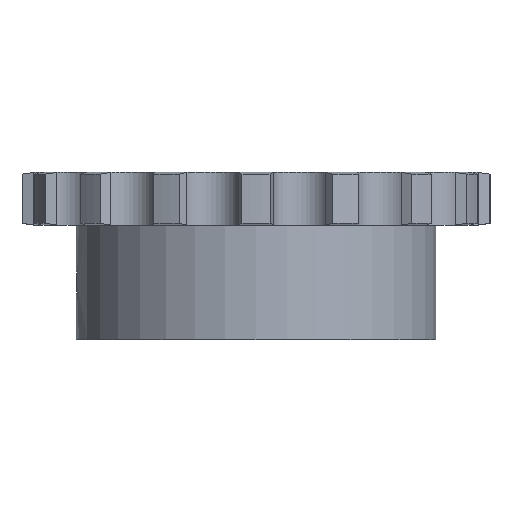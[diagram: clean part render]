
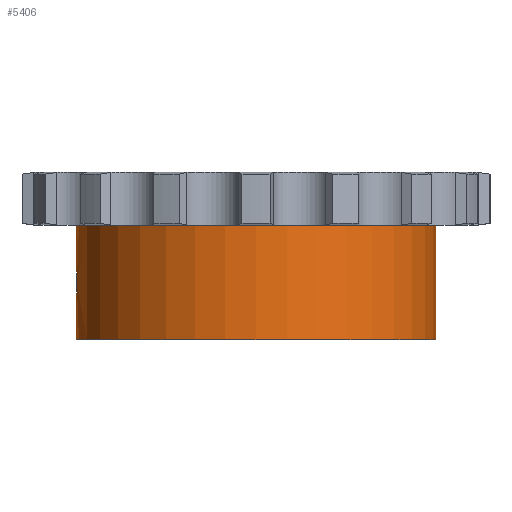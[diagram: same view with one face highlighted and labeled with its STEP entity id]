
A CAD part, front view. The second image highlights one B-rep face of the part: STEP entity #5406.
In plain terms, the highlighted cylindrical face has radius 37.5 mm (diameter 75 mm), a partial arc.
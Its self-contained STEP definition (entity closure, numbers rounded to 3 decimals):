
#1039=CARTESIAN_POINT('',(0.,0.,-5.55));
#1040=DIRECTION('',(0.,0.,1.));
#1041=DIRECTION('',(-1.,0.,0.));
#1042=AXIS2_PLACEMENT_3D('',#1039,#1040,#1041);
#2569=CARTESIAN_POINT('',(-37.5,0.,
-14.5));
#2592=DIRECTION('',(0.,0.,1.));
#2593=VECTOR('',#2592,23.9);
#2594=CARTESIAN_POINT('',(37.5,0.,-29.45));
#2595=LINE('',#2594,#2593);
#2711=CARTESIAN_POINT('',(-37.5,0.,
-14.5));
#2712=CARTESIAN_POINT('',(-37.5,-0.145,
-14.5));
#2713=CARTESIAN_POINT('',(-37.498,-0.432,
-14.52));
#2714=CARTESIAN_POINT('',(-37.491,-0.866,
-14.612));
#2715=CARTESIAN_POINT('',(-37.479,-1.282,
-14.766));
#2716=CARTESIAN_POINT('',(-37.463,-1.669,
-14.977));
#2717=CARTESIAN_POINT('',(-37.446,-2.018,
-15.236));
#2718=CARTESIAN_POINT('',(-37.428,-2.325,
-15.542));
#2719=CARTESIAN_POINT('',(-37.411,-2.586,
-15.889));
#2720=CARTESIAN_POINT('',(-37.396,-2.794,
-16.27));
#2721=CARTESIAN_POINT('',(-37.384,-2.944,
-16.674));
#2722=CARTESIAN_POINT('',(-37.377,-3.032,
-17.09));
#2723=CARTESIAN_POINT('',(-37.376,-3.051,
-17.363));
#2724=CARTESIAN_POINT('',(-37.376,-3.051,
-17.5));
#2729=DIRECTION('',(0.,0.,1.));
#2730=VECTOR('',#2729,8.95);
#2731=CARTESIAN_POINT('',(-37.5,0.,
-14.5));
#2732=LINE('',#2731,#2730);
#2736=DIRECTION('',(0.,0.,1.));
#2737=VECTOR('',#2736,8.95);
#2738=CARTESIAN_POINT('',(-37.5,0.,-29.45));
#2739=LINE('',#2738,#2737);
#2743=CARTESIAN_POINT('',(-37.376,-3.051,
-17.5));
#2744=CARTESIAN_POINT('',(-37.376,-3.051,
-17.636));
#2745=CARTESIAN_POINT('',(-37.377,-3.032,
-17.909));
#2746=CARTESIAN_POINT('',(-37.384,-2.944,
-18.324));
#2747=CARTESIAN_POINT('',(-37.396,-2.795,
-18.728));
#2748=CARTESIAN_POINT('',(-37.411,-2.587,
-19.11));
#2749=CARTESIAN_POINT('',(-37.428,-2.326,
-19.458));
#2750=CARTESIAN_POINT('',(-37.446,-2.018,
-19.763));
#2751=CARTESIAN_POINT('',(-37.463,-1.67,
-20.023));
#2752=CARTESIAN_POINT('',(-37.479,-1.283,
-20.233));
#2753=CARTESIAN_POINT('',(-37.491,-0.867,
-20.387));
#2754=CARTESIAN_POINT('',(-37.498,-0.433,
-20.48));
#2755=CARTESIAN_POINT('',(-37.5,-0.145,
-20.5));
#2756=CARTESIAN_POINT('',(-37.5,0.,
-20.5));
#2769=CARTESIAN_POINT('',(0.,0.,-29.45));
#2770=DIRECTION('',(0.,0.,-1.));
#2771=DIRECTION('',(1.,0.,0.));
#2772=AXIS2_PLACEMENT_3D('',#2769,#2770,#2771);
#3121=CARTESIAN_POINT('',(-37.5,0.,-29.45));
#3122=CARTESIAN_POINT('',(37.5,0.,-29.45));
#3123=VERTEX_POINT('',#3121);
#3124=VERTEX_POINT('',#3122);
#3125=CARTESIAN_POINT('',(37.5,0.,-5.55));
#3126=VERTEX_POINT('',#3125);
#3127=CARTESIAN_POINT('',(-37.5,0.,-5.55));
#3128=VERTEX_POINT('',#3127);
#3286=VERTEX_POINT('',#2569);
#3289=VERTEX_POINT('',#2724);
#3291=VERTEX_POINT('',#2756);
#5390=CARTESIAN_POINT('',(0.,0.,5.55));
#5391=DIRECTION('',(0.,0.,1.));
#5392=DIRECTION('',(1.,0.,0.));
#5393=AXIS2_PLACEMENT_3D('',#5390,#5391,#5392);
#5394=CYLINDRICAL_SURFACE('',#5393,37.5);
#5395=ORIENTED_EDGE('',*,*,#5380,.F.);
#5396=ORIENTED_EDGE('',*,*,#5007,.T.);
#5397=ORIENTED_EDGE('',*,*,#4398,.T.);
#5398=ORIENTED_EDGE('',*,*,#5004,.F.);
#5400=ORIENTED_EDGE('',*,*,#5399,.T.);
#5401=ORIENTED_EDGE('',*,*,#5000,.T.);
#5403=ORIENTED_EDGE('',*,*,#5402,.F.);
#5404=EDGE_LOOP('',(#5395,#5396,#5397,#5398,#5400,#5401,#5403));
#5405=FACE_OUTER_BOUND('',#5404,.F.);
#5406=ADVANCED_FACE('',(#5405),#5394,.T.);
#1043=CIRCLE('',#1042,37.5);
#2725=B_SPLINE_CURVE_WITH_KNOTS('',3,(#2711,#2712,#2713,#2714,#2715,#2716,#2717,
#2718,#2719,#2720,#2721,#2722,#2723,#2724),.UNSPECIFIED.,.F.,.F.,(4,1,1,1,1,1,1,
1,1,1,1,4),(0.,0.091,0.182,0.273,
0.364,0.455,0.545,0.636,
0.727,0.818,0.909,1.),.UNSPECIFIED.);
#2757=B_SPLINE_CURVE_WITH_KNOTS('',3,(#2743,#2744,#2745,#2746,#2747,#2748,#2749,
#2750,#2751,#2752,#2753,#2754,#2755,#2756),.UNSPECIFIED.,.F.,.F.,(4,1,1,1,1,1,1,
1,1,1,1,4),(0.,0.091,0.182,0.273,
0.364,0.455,0.545,0.636,
0.727,0.818,0.909,1.),.UNSPECIFIED.);
#2773=CIRCLE('',#2772,37.5);
#4398=EDGE_CURVE('',#3128,#3126,#1043,.T.);
#5000=EDGE_CURVE('',#3123,#3291,#2739,.T.);
#5004=EDGE_CURVE('',#3124,#3126,#2595,.T.);
#5007=EDGE_CURVE('',#3286,#3128,#2732,.T.);
#5380=EDGE_CURVE('',#3286,#3289,#2725,.T.);
#5399=EDGE_CURVE('',#3124,#3123,#2773,.T.);
#5402=EDGE_CURVE('',#3289,#3291,#2757,.T.);
